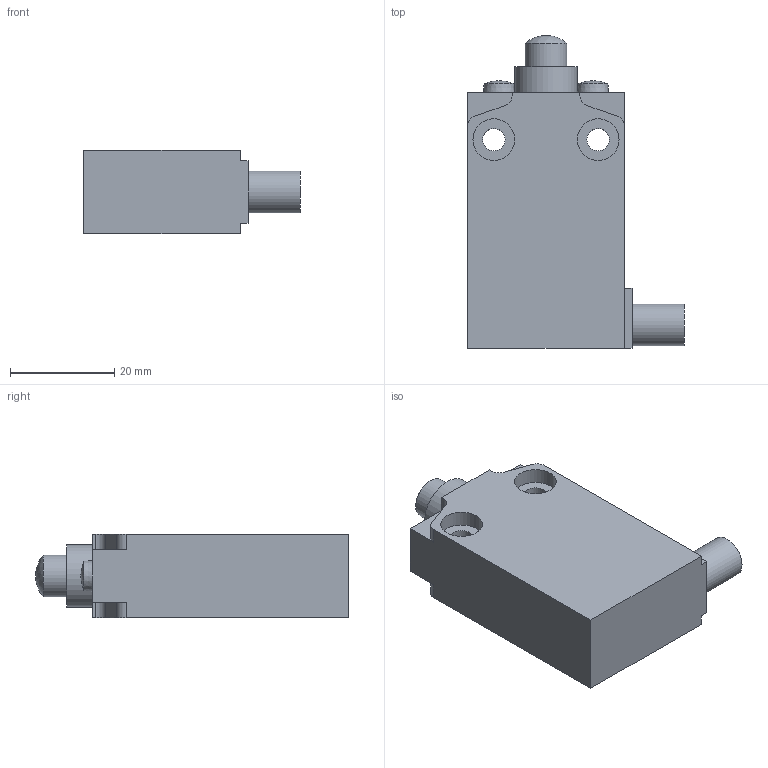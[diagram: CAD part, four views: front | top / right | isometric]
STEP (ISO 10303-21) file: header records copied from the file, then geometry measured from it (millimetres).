
FILE_DESCRIPTION((''),'2;1');
FILE_NAME('C:\Workarea\Disegni\Comepi\Catalogo\Stp\Finecorsa\EM1G11.iam.step','2011-07-22T16:16:32',(''),(''),'Autodesk Inventor 2012','Autodesk Inventor 2012','');
FILE_SCHEMA(('AUTOMOTIVE_DESIGN { 1 0 10303 214 1 1 1 1 }'));
Length unit declared in the file: millimetre
Products named in the file (5): EM1G11; EM1; G11; G11_1; G11_2
Assembly tree (4 placements, depth 3):
  EM1G11
    EM1
    G11
      G11_1
      G11_2
Bounding box: 41.5 x 59.96 x 16 mm (x, y, z)
Volume: 23665.1 mm3; surface area: 6990.6 mm2
Topology: 3 solids, 3 shells, 55 faces, 124 edges, 82 vertices
Faces by surface type: plane 30, cylinder 18, sphere 3, torus 2, cone 2
Full cylindrical faces by diameter (mm): 4.3 x2, 8 x7, 12 x1
Entity records: 1624 total; most frequent: DIRECTION 280, CARTESIAN_POINT 256, ORIENTED_EDGE 220, EDGE_CURVE 110, AXIS2_PLACEMENT_3D 106, VERTEX_POINT 82, EDGE_LOOP 82, VECTOR 68
